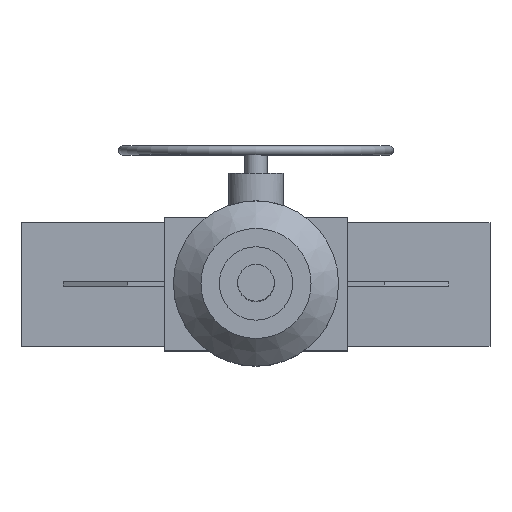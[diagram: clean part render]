
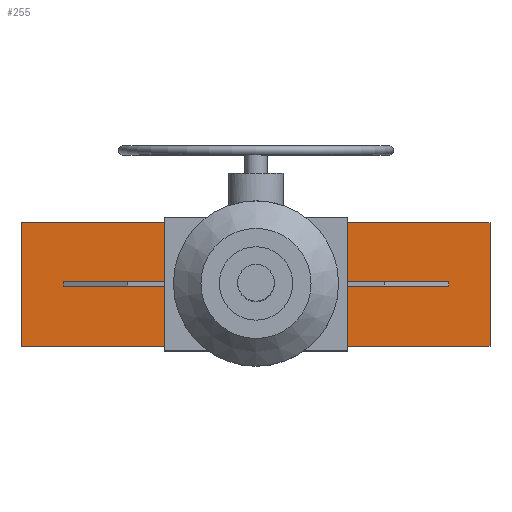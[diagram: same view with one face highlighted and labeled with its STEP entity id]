
A CAD part, top view. The second image highlights one B-rep face of the part: STEP entity #255.
In plain terms, the highlighted planar face has unit normal (0, 0, 1).
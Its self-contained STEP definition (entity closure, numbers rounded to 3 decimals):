
#255=ADVANCED_FACE('',(#1820,#1822),#1824,.T.);
#1820=FACE_BOUND('',#1821,.T.);
#1821=EDGE_LOOP('',(#3126,#3127,#3128,#3129,#3130,#3131,#3132,#3133));
#1822=FACE_BOUND('',#1823,.T.);
#1823=EDGE_LOOP('',(#3134,#3135,#3136,#3137));
#1824=PLANE('',#1825);
#1825=AXIS2_PLACEMENT_3D('',#1826,#1827,#1828);
#1826=CARTESIAN_POINT('',(0.,0.,420.));
#1827=DIRECTION('',(0.,0.,1.));
#1828=DIRECTION('',(1.,0.,0.));
#3126=ORIENTED_EDGE('',*,*,#3864,.F.);
#3127=ORIENTED_EDGE('',*,*,#3862,.T.);
#3128=ORIENTED_EDGE('',*,*,#3871,.T.);
#3129=ORIENTED_EDGE('',*,*,#3853,.T.);
#3130=ORIENTED_EDGE('',*,*,#3867,.F.);
#3131=ORIENTED_EDGE('',*,*,#3857,.T.);
#3132=ORIENTED_EDGE('',*,*,#3872,.T.);
#3133=ORIENTED_EDGE('',*,*,#3858,.T.);
#3134=ORIENTED_EDGE('',*,*,#3873,.F.);
#3135=ORIENTED_EDGE('',*,*,#3874,.F.);
#3136=ORIENTED_EDGE('',*,*,#3875,.F.);
#3137=ORIENTED_EDGE('',*,*,#3876,.F.);
#3853=EDGE_CURVE('',#4278,#4246,#4279,.T.);
#3857=EDGE_CURVE('',#4262,#4284,#4286,.T.);
#3858=EDGE_CURVE('',#4287,#4268,#4288,.T.);
#3862=EDGE_CURVE('',#4252,#4293,#4295,.T.);
#3864=EDGE_CURVE('',#4252,#4268,#4297,.T.);
#3867=EDGE_CURVE('',#4262,#4246,#4301,.T.);
#3871=EDGE_CURVE('',#4293,#4278,#4308,.T.);
#3872=EDGE_CURVE('',#4284,#4287,#4309,.T.);
#3873=EDGE_CURVE('',#4310,#4311,#4312,.T.);
#3874=EDGE_CURVE('',#4313,#4310,#4314,.F.);
#3875=EDGE_CURVE('',#4315,#4313,#4316,.T.);
#3876=EDGE_CURVE('',#4311,#4315,#4317,.T.);
#4246=VERTEX_POINT('',#4974);
#4252=VERTEX_POINT('',#4986);
#4262=VERTEX_POINT('',#5008);
#4268=VERTEX_POINT('',#5020);
#4278=VERTEX_POINT('',#5044);
#4279=LINE('',#5045,#5046);
#4284=VERTEX_POINT('',#5056);
#4286=LINE('',#5060,#5061);
#4287=VERTEX_POINT('',#5063);
#4288=LINE('',#5064,#5065);
#4293=VERTEX_POINT('',#5075);
#4295=LINE('',#5079,#5080);
#4297=LINE('',#5085,#5086);
#4301=LINE('',#5096,#5097);
#4308=LINE('',#5175,#5176);
#4309=LINE('',#5178,#5179);
#4310=VERTEX_POINT('',#5181);
#4311=VERTEX_POINT('',#5182);
#4312=LINE('',#5183,#5184);
#4313=VERTEX_POINT('',#5186);
#4314=LINE('',#5187,#5188);
#4315=VERTEX_POINT('',#5190);
#4316=LINE('',#5191,#5192);
#4317=LINE('',#5194,#5195);
#4974=CARTESIAN_POINT('',(100.,67.5,420.));
#4986=CARTESIAN_POINT('',(100.,-67.5,420.));
#5008=CARTESIAN_POINT('',(-100.,67.5,420.));
#5020=CARTESIAN_POINT('',(-100.,-67.5,420.));
#5044=CARTESIAN_POINT('',(255.,67.5,420.));
#5045=CARTESIAN_POINT('',(255.,67.5,420.));
#5046=VECTOR('',#5047,1.);
#5047=DIRECTION('',(-1.,0.,0.));
#5056=CARTESIAN_POINT('',(-255.,67.5,420.));
#5060=CARTESIAN_POINT('',(-100.,67.5,420.));
#5061=VECTOR('',#5062,1.);
#5062=DIRECTION('',(-1.,0.,0.));
#5063=CARTESIAN_POINT('',(-255.,-67.5,420.));
#5064=CARTESIAN_POINT('',(-255.,-67.5,420.));
#5065=VECTOR('',#5066,1.);
#5066=DIRECTION('',(1.,0.,0.));
#5075=CARTESIAN_POINT('',(255.,-67.5,420.));
#5079=CARTESIAN_POINT('',(100.,-67.5,420.));
#5080=VECTOR('',#5081,1.);
#5081=DIRECTION('',(1.,0.,0.));
#5085=CARTESIAN_POINT('',(100.,-67.5,420.));
#5086=VECTOR('',#5087,1.);
#5087=DIRECTION('',(-1.,0.,0.));
#5096=CARTESIAN_POINT('',(-100.,67.5,420.));
#5097=VECTOR('',#5098,1.);
#5098=DIRECTION('',(1.,0.,0.));
#5175=CARTESIAN_POINT('',(255.,-67.5,420.));
#5176=VECTOR('',#5177,1.);
#5177=DIRECTION('',(0.,1.,0.));
#5178=CARTESIAN_POINT('',(-255.,67.5,420.));
#5179=VECTOR('',#5180,1.);
#5180=DIRECTION('',(0.,-1.,0.));
#5181=CARTESIAN_POINT('',(-210.,2.5,420.));
#5182=CARTESIAN_POINT('',(-210.,-2.5,420.));
#5183=CARTESIAN_POINT('',(-210.,2.5,420.));
#5184=VECTOR('',#5185,1.);
#5185=DIRECTION('',(0.,-1.,0.));
#5186=CARTESIAN_POINT('',(210.,2.5,420.));
#5187=CARTESIAN_POINT('',(-210.,2.5,420.));
#5188=VECTOR('',#5189,1.);
#5189=DIRECTION('',(1.,0.,0.));
#5190=CARTESIAN_POINT('',(210.,-2.5,420.));
#5191=CARTESIAN_POINT('',(210.,-2.5,420.));
#5192=VECTOR('',#5193,1.);
#5193=DIRECTION('',(0.,1.,0.));
#5194=CARTESIAN_POINT('',(-210.,-2.5,420.));
#5195=VECTOR('',#5196,1.);
#5196=DIRECTION('',(1.,0.,0.));
